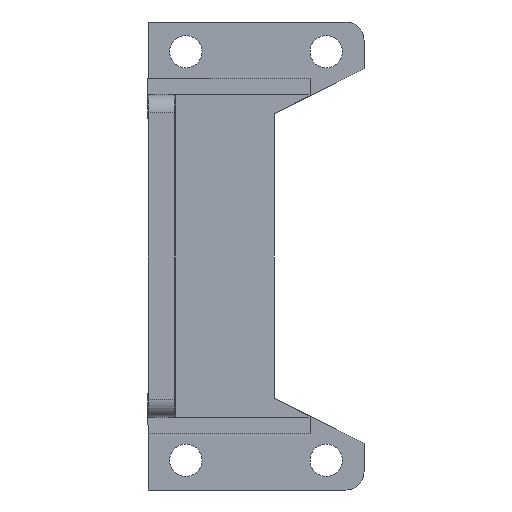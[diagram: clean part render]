
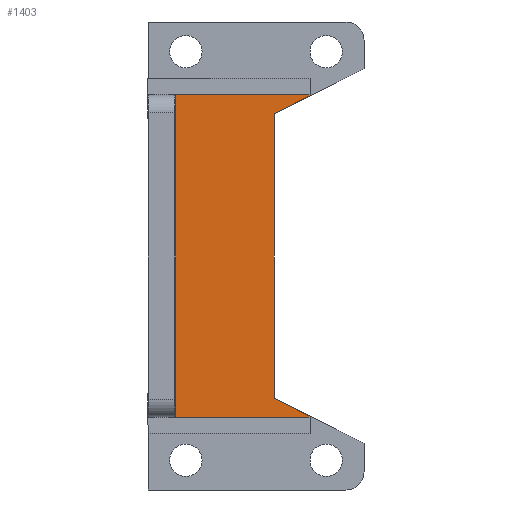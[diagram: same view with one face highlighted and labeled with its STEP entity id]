
A CAD part, left-side view. The second image highlights one B-rep face of the part: STEP entity #1403.
In plain terms, the highlighted planar face has unit normal (-1, 0, 0).
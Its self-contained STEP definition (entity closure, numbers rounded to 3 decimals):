
#66 = VECTOR ( 'NONE', #204, 1000. ) ;
#104 = DIRECTION ( 'NONE',  ( 0., 0., 1. ) ) ;
#107 = CARTESIAN_POINT ( 'NONE',  ( 3.5, -15., 44.5 ) ) ;
#108 = LINE ( 'NONE', #107, #927 ) ;
#126 = DIRECTION ( 'NONE',  ( 0., -0.894, 0.447 ) ) ;
#127 = CARTESIAN_POINT ( 'NONE',  ( 3.5, -5., 39.5 ) ) ;
#128 = LINE ( 'NONE', #127, #1075 ) ;
#155 = DIRECTION ( 'NONE',  ( 0., 0., 1. ) ) ;
#156 = CARTESIAN_POINT ( 'NONE',  ( 3.5, -5., -39.5 ) ) ;
#158 = LINE ( 'NONE', #156, #1446 ) ;
#164 = DIRECTION ( 'NONE',  ( 0., 0.894, 0.447 ) ) ;
#165 = CARTESIAN_POINT ( 'NONE',  ( 3.5, -15., -44.5 ) ) ;
#166 = LINE ( 'NONE', #165, #1809 ) ;
#204 = DIRECTION ( 'NONE',  ( 0., 0., 1. ) ) ;
#205 = CARTESIAN_POINT ( 'NONE',  ( 3.5, -15., -49.25 ) ) ;
#207 = LINE ( 'NONE', #205, #66 ) ;
#240 = CARTESIAN_POINT ( 'NONE',  ( 3.5, 22.5, 44.75 ) ) ;
#241 = CARTESIAN_POINT ( 'NONE',  ( 3.5, -15., 44.75 ) ) ;
#242 = CARTESIAN_POINT ( 'NONE',  ( 3.5, 22.5, -44.75 ) ) ;
#245 = CARTESIAN_POINT ( 'NONE',  ( 3.5, -15., -44.75 ) ) ;
#248 = CARTESIAN_POINT ( 'NONE',  ( 3.5, -15., -44.5 ) ) ;
#249 = CARTESIAN_POINT ( 'NONE',  ( 3.5, -5., -39.5 ) ) ;
#272 = CARTESIAN_POINT ( 'NONE',  ( 3.5, -5., 39.5 ) ) ;
#274 = CARTESIAN_POINT ( 'NONE',  ( 3.5, -15., 44.5 ) ) ;
#282 = DIRECTION ( 'NONE',  ( 0., 1., 0. ) ) ;
#283 = CARTESIAN_POINT ( 'NONE',  ( 3.5, -15., -44.75 ) ) ;
#284 = LINE ( 'NONE', #283, #570 ) ;
#325 = ORIENTED_EDGE ( 'NONE', *, *, #1304, .T. ) ;
#344 = ORIENTED_EDGE ( 'NONE', *, *, #1332, .T. ) ;
#382 = ORIENTED_EDGE ( 'NONE', *, *, #1674, .F. ) ;
#410 = VERTEX_POINT ( 'NONE', #274 ) ;
#412 = VERTEX_POINT ( 'NONE', #272 ) ;
#434 = EDGE_LOOP ( 'NONE', ( #382, #1004, #1355, #1141, #1090, #472, #325, #344 ) ) ;
#472 = ORIENTED_EDGE ( 'NONE', *, *, #1280, .T. ) ;
#475 = DIRECTION ( 'NONE',  ( 0., -1., 0. ) ) ;
#476 = CARTESIAN_POINT ( 'NONE',  ( 3.5, -15., 44.75 ) ) ;
#481 = VERTEX_POINT ( 'NONE', #249 ) ;
#484 = LINE ( 'NONE', #476, #829 ) ;
#491 = VERTEX_POINT ( 'NONE', #248 ) ;
#499 = VERTEX_POINT ( 'NONE', #245 ) ;
#503 = VERTEX_POINT ( 'NONE', #242 ) ;
#508 = VERTEX_POINT ( 'NONE', #241 ) ;
#511 = VERTEX_POINT ( 'NONE', #240 ) ;
#570 = VECTOR ( 'NONE', #282, 1000. ) ;
#829 = VECTOR ( 'NONE', #475, 1000. ) ;
#927 = VECTOR ( 'NONE', #104, 1000. ) ;
#1004 = ORIENTED_EDGE ( 'NONE', *, *, #1436, .T. ) ;
#1075 = VECTOR ( 'NONE', #126, 1000. ) ;
#1090 = ORIENTED_EDGE ( 'NONE', *, *, #1271, .T. ) ;
#1141 = ORIENTED_EDGE ( 'NONE', *, *, #1782, .T. ) ;
#1271 = EDGE_CURVE ( 'NONE', #491, #481, #166, .T. ) ;
#1280 = EDGE_CURVE ( 'NONE', #481, #412, #158, .T. ) ;
#1304 = EDGE_CURVE ( 'NONE', #412, #410, #128, .T. ) ;
#1332 = EDGE_CURVE ( 'NONE', #410, #508, #108, .T. ) ;
#1355 = ORIENTED_EDGE ( 'NONE', *, *, #1735, .F. ) ;
#1403 = ADVANCED_FACE ( 'NONE', ( #1652 ), #1810, .F. ) ;
#1436 = EDGE_CURVE ( 'NONE', #511, #503, #1725, .T. ) ;
#1446 = VECTOR ( 'NONE', #155, 1000. ) ;
#1491 = AXIS2_PLACEMENT_3D ( 'NONE', #1808, #1807, #1806 ) ;
#1642 = VECTOR ( 'NONE', #1718, 1000. ) ;
#1652 = FACE_OUTER_BOUND ( 'NONE', #434, .T. ) ;
#1674 = EDGE_CURVE ( 'NONE', #511, #508, #484, .T. ) ;
#1718 = DIRECTION ( 'NONE',  ( 0., 0., -1. ) ) ;
#1719 = CARTESIAN_POINT ( 'NONE',  ( 3.5, 22.5, -44.75 ) ) ;
#1725 = LINE ( 'NONE', #1719, #1642 ) ;
#1735 = EDGE_CURVE ( 'NONE', #499, #503, #284, .T. ) ;
#1782 = EDGE_CURVE ( 'NONE', #499, #491, #207, .T. ) ;
#1806 = DIRECTION ( 'NONE',  ( 0., 0., -1. ) ) ;
#1807 = DIRECTION ( 'NONE',  ( 1., 0., 0. ) ) ;
#1808 = CARTESIAN_POINT ( 'NONE',  ( 3.5, 0., 0. ) ) ;
#1809 = VECTOR ( 'NONE', #164, 1000. ) ;
#1810 = PLANE ( 'NONE',  #1491 ) ;
